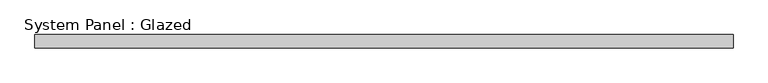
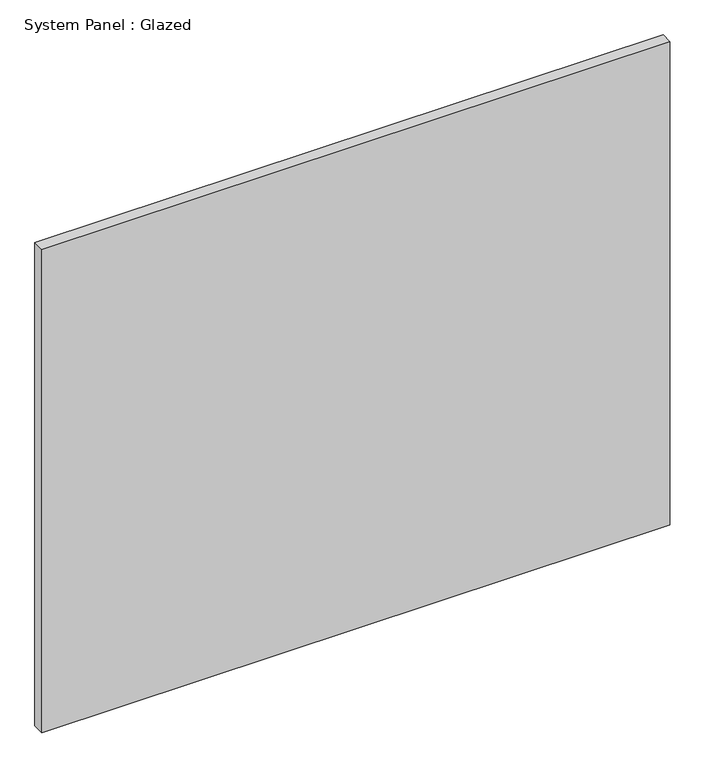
"""IFC4 building model written with IfcOpenShell, lengths in millimetres: plate geometry, System Panel : Glazed."""

from ifc_helpers import new_model, si_unit, origin, origin_with_axes, place, context, project, spatial, polyline, outline, extrude, source, transform, mapped, element, save


def system_panel_glazed_837bc370(model_context):
    return source(origin(), model_context, "Body", "SweptSolid", [
        extrude(outline(polyline([(660.8099812, 24.5), (-660.8099812, 24.5), (-660.8099812, 49.5), (660.8099812, 49.5), (660.8099812, 24.5)])), origin_with_axes(), (0.0, 0.0, 1.0), 1075.0),
    ])


if __name__ == "__main__":
    model = new_model("IFC4")
    model_context = context("Model", 3, world=origin())
    ifc_project = project(units=[si_unit("LENGTHUNIT", "METRE", prefix="MILLI")], contexts=[model_context])
    site = spatial("IfcSite", under=ifc_project)
    building = spatial("IfcBuilding", under=site)
    placement = place(None, origin())
    system_panel_glazed_shape = system_panel_glazed_837bc370(model_context)
    element("IfcPlate", 1, ObjectType="System Panel : Glazed", at=placement, inside=building, context=model_context, shape_type="MappedRepresentation", body=[
        mapped(system_panel_glazed_shape, transform((0.0, 0.0, 0.0), x_axis=(1.0, 0.0, 0.0), y_axis=(0.0, 1.0, 0.0), z_axis=(0.0, 0.0, 1.0))),
    ])
    save(model, "model.ifc")
